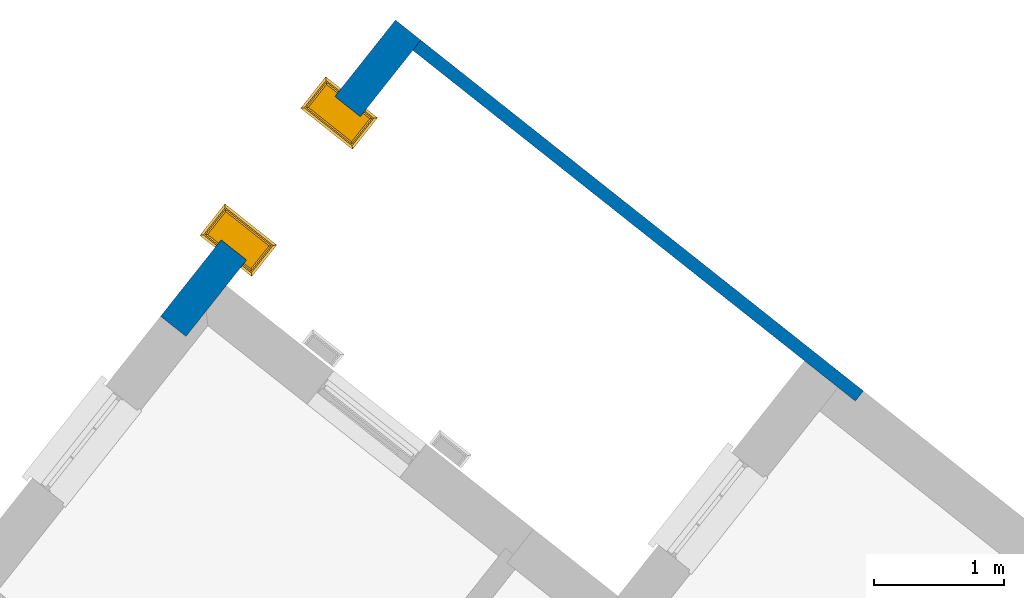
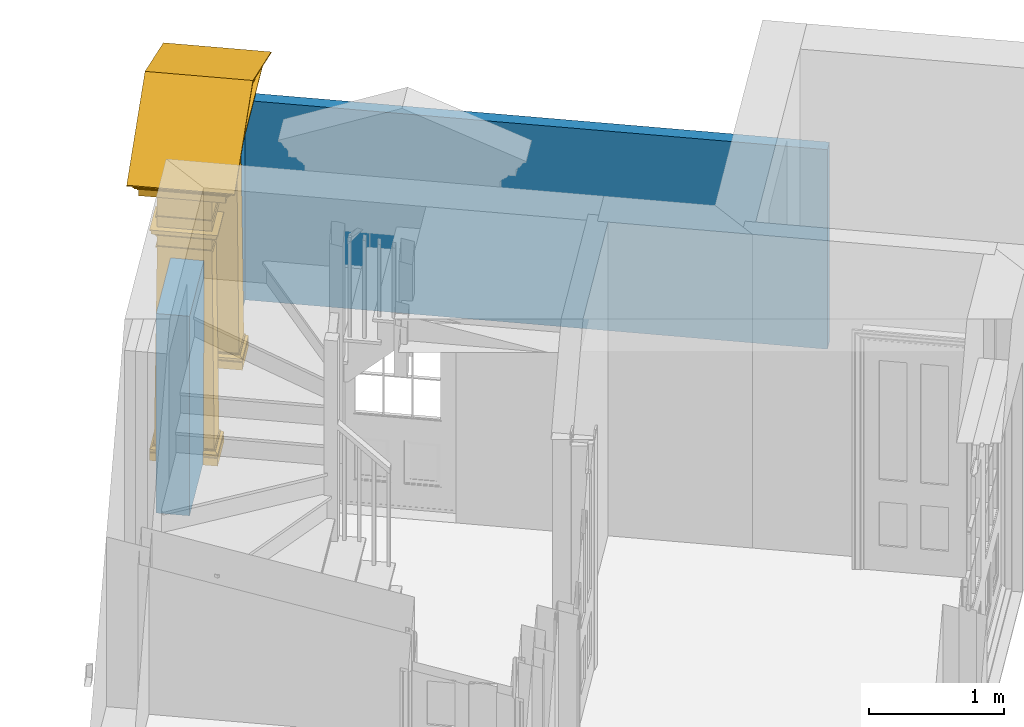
# One storey, part 7 of 8: 2 walls, 1 door, 1 opening.
"""IFC4 building model written with IfcOpenShell, lengths in metres."""

from ifc_helpers import new_model, si_unit, frame, origin, origin_with_axes, place, context, subcontext, project, spatial, polyline, outline, extrude, faceted_brep, source, transform, mapped, material, layer, layer_set, layer_usage, type_object, type_shapes, element, fill, save


model = new_model("IFC4")

# Units and contexts
model_context = context("Model", 3, world=origin_with_axes())
body_context = subcontext(model_context, "Body", "Model", "MODEL_VIEW")
ifc_project = project(units=[si_unit("PLANEANGLEUNIT", "RADIAN"), si_unit("MASSUNIT", "GRAM", prefix="KILO"), si_unit("FORCEUNIT", "NEWTON", prefix="KILO"), si_unit("LENGTHUNIT", "METRE"), si_unit("AREAUNIT", "SQUARE_METRE"), si_unit("VOLUMEUNIT", "CUBIC_METRE")], contexts=[model_context, model_context])

# Sites, building, storey
site_1_placement = place(None, origin_with_axes())
site_1 = spatial("IfcSite", under=ifc_project, at=site_1_placement, Name="Tamar")
site_2_placement = place(site_1_placement, origin_with_axes())
site_2 = spatial("IfcSite", under=site_1, at=site_2_placement, Name="Site plot-5", CompositionType="ELEMENT")
building_placement = place(None, origin_with_axes())
building = spatial("IfcBuilding", under=site_2, at=building_placement, Name="Building plot-5", CompositionType="ELEMENT")
storey_placement = place(None, frame((0.0, 0.0, 24.0), z_axis=(0.0, 0.0, 1.0), x_axis=(1.0, 0.0, 0.0)))
storey = spatial("IfcBuildingStorey", under=building, at=storey_placement, Name="plot-5 0", CompositionType="ELEMENT", Elevation=24.0)

# Wall
ifc_material_1 = material(Name="Masonry")
ifc_layer_1 = layer(ifc_material_1, 0.1, ventilated=False)
ifc_layer_set_1 = layer_set([ifc_layer_1], Name="fence_-0.15_0.25")
ifc_layer_usage_1 = layer_usage(ifc_layer_set_1, "AXIS2", "POSITIVE", -0.25)
wall_type_1 = type_object("IfcWallType", Name="fence_-0.15_0.25", PredefinedType="SOLIDWALL", material=ifc_layer_set_1)
wall_1_placement = place(storey_placement, frame((234.228257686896, 276.89639021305, 0.0), z_axis=(0.0, 0.0, 1.0), x_axis=(-0.783658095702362, 0.621192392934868, 0.0)))
element("IfcWall", 1, at=wall_1_placement, inside=storey, type_object=wall_type_1, material=ifc_layer_usage_1, Name="fence", context=body_context, shape_type="SweptSolid", body=[
    extrude(outline(polyline([(-0.250000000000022, -0.149999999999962), (-0.250000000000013, -0.249999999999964), (4.35009451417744, -0.250000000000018), (4.35009451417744, -0.150000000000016), (-0.250000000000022, -0.149999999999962)])), origin_with_axes(), (0.0, 0.0, 1.0), 1.8),
])

# Wall, opening, door
ifc_material_2 = material(Name="Masonry")
ifc_layer_2 = layer(ifc_material_2, 0.25, ventilated=False)
ifc_layer_set_2 = layer_set([ifc_layer_2], Name="fence_0_0.25")
ifc_layer_usage_2 = layer_usage(ifc_layer_set_2, "AXIS2", "POSITIVE", -0.25)
wall_type_2 = type_object("IfcWallType", Name="fence_0_0.25", PredefinedType="SOLIDWALL", material=ifc_layer_set_2)
wall_2_placement = place(storey_placement, frame((231.015185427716, 279.443337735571, 0.0), z_axis=(0.0, 0.0, 1.0), x_axis=(-0.621192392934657, -0.78365809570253, 0.0)))
wall_2 = element("IfcWall", 2, at=wall_2_placement, inside=storey, type_object=wall_type_2, material=ifc_layer_usage_2, Name="fence", context=body_context, shape_type="SweptSolid", body=[
    extrude(outline(polyline([(-0.25, -7.91319964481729e-15), (-0.250000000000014, -0.250000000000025), (2.66263567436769, -0.25000000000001), (2.66263567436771, 7.09468663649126e-15), (-0.25, -7.91319964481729e-15)])), origin_with_axes(), (0.0, 0.0, 1.0), 1.8),
])
opening_placement = place(wall_2_placement, frame((0.501317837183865, 0.0, -0.0100000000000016)))
opening = element("IfcOpeningElement", 3, at=opening_placement, cuts=wall_2, Name="My Opening", ObjectType="Opening", context=body_context, shape_type="SweptSolid", body=[
    extrude(outline(polyline([(0.0, -0.269999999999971), (1.40999999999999, -0.269999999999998), (1.40999999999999, 1.01999999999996), (3.10862446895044e-15, 1.01999999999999), (0.0, -0.269999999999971)])), origin_with_axes(), (0.0, 0.0, 1.0), 1.81),
])
door_type = type_object("IfcDoorType", Name="gate", OperationType="SINGLE_SWING_LEFT", PredefinedType="NOTDEFINED")
shared_shape = source(origin(), body_context, "Body", "Brep", [
    faceted_brep([(1.565, 0.25, 2.5), (1.565, -0.21, 2.5), (1.565, -0.21, 2.49), (1.565, 0.25, 2.49), (1.445, -0.09, 2.01), (1.215, -0.09, 2.01), (1.215, -0.09, 2.0), (1.445, -0.09, 2.0), (-0.035, -0.09, 2.180001), (-0.025, -0.08, 2.180001), (-0.025, 0.25, 2.180001), (-0.035, 0.25, 2.180001), (-0.025, -0.08, 2.170001), (-0.035, -0.09, 2.170001), (-0.035, 0.25, 2.170001), (-0.025, 0.25, 2.170001), (1.445, -0.09, 2.180001), (1.435, -0.08, 2.180001), (-0.025, -0.08, 2.37), (-0.025, 0.25, 2.37), (1.435, -0.08, 2.170001), (1.445, -0.09, 2.170001), (-0.025, -0.08, 2.08), (-0.025, 0.25, 2.08), (1.445, 0.25, 2.180001), (1.435, 0.25, 2.180001), (1.435, -0.08, 2.37), (-0.035, -0.09, 2.37), (-0.035, 0.25, 2.37), (1.435, 0.25, 2.37), (1.445, 0.25, 2.170001), (1.435, 0.25, 2.170001), (0.235, -0.08, 2.08), (0.235, 0.25, 2.08), (1.175, 0.25, 2.08), (1.175, -0.08, 2.08), (-0.075, 0.25, 2.08), (-0.075, -0.13, 2.08), (1.445, -0.09, 2.37), (-0.035, -0.09, 2.380001), (-0.035, 0.25, 2.380001), (1.445, 0.25, 2.37), (1.435, -0.08, 2.08), (1.435, 0.25, 2.08), (0.235, 0.38, 2.07), (0.235, 0.38, 2.08), (0.235, 0.33, 2.08), (0.235, -0.13, 2.08), (-0.075, 0.25, 2.07), (-0.075, -0.13, 2.07), (1.445, -0.09, 2.380001), (-0.045, -0.1, 2.39), (-0.045, 0.25, 2.39), (1.455, 0.25, 2.39), (1.455, -0.1, 2.39), (1.445, 0.25, 2.380001), (1.485, -0.13, 2.08), (1.485, 0.25, 2.08), (0.235, -0.13, 2.07), (1.175, -0.13, 2.08), (-0.065, 0.25, 2.07), (-0.065, -0.12, 2.07), (-0.055, -0.11, 2.39), (-0.055, 0.25, 2.39), (1.465, 0.25, 2.39), (1.465, -0.11, 2.39), (1.485, 0.25, 2.07), (1.485, -0.13, 2.07), (0.225, 0.25, 2.07), (0.235, 0.25, 2.07), (0.225, -0.12, 2.07), (-0.065, 0.25, 2.04), (-0.065, -0.12, 2.04), (1.475, 0.25, 2.07), (1.475, -0.12, 2.07), (1.175, 0.25, 2.07), (1.185, 0.25, 2.07), (1.185, -0.12, 2.07), (1.175, -0.13, 2.07), (1.175, 0.33, 2.08), (1.175, 0.38, 2.07), (-0.055, -0.11, 2.4), (-0.055, 0.25, 2.4), (1.465, 0.25, 2.4), (1.465, -0.11, 2.4), (0.225, 0.25, 2.04), (0.225, -0.12, 2.04), (-0.055, 0.25, 2.04), (-0.055, -0.11, 2.04), (1.475, 0.25, 2.04), (1.475, -0.12, 2.04), (1.185, 0.25, 2.04), (1.195, 0.25, 2.04), (1.195, -0.11, 2.04), (1.185, -0.12, 2.04), (-0.065, -0.12, 2.4), (-0.065, 0.25, 2.4), (-0.085, -0.14, 2.42), (-0.085, 0.25, 2.42), (-0.085, -0.14, 2.43), (-0.085, 0.25, 2.43), (1.495, 0.25, 2.43), (1.495, -0.14, 2.43), (1.495, -0.14, 2.42), (1.495, 0.25, 2.42), (1.475, 0.25, 2.4), (1.475, -0.12, 2.4), (0.215, 0.25, 2.04), (0.215, -0.11, 2.04), (-0.055, 0.25, 2.03), (-0.055, -0.11, 2.03), (0.215, 0.25, 2.03), (0.215, -0.11, 2.03), (1.465, 0.25, 2.04), (1.465, -0.11, 2.04), (1.195, 0.25, 2.03), (1.195, -0.11, 2.03), (1.465, 0.25, 2.03), (1.465, -0.11, 2.03), (-0.145, -0.2, 2.43), (-0.145, 0.25, 2.43), (1.555, 0.25, 2.43), (1.555, -0.2, 2.43), (-0.035, 0.25, 2.01), (-0.035, -0.09, 2.01), (0.195, 0.25, 2.01), (0.195, -0.09, 2.01), (1.215, 0.25, 2.01), (1.445, 0.25, 2.01), (-0.145, -0.2, 2.49), (-0.145, 0.25, 2.49), (1.555, 0.25, 2.49), (1.555, -0.2, 2.49), (-0.035, 0.25, 2.0), (-0.035, -0.09, 2.0), (0.195, 0.25, 2.0), (0.195, -0.09, 2.0), (1.215, 0.25, 2.0), (1.445, 0.25, 2.0), (-0.155, -0.21, 2.49), (-0.155, 0.25, 2.49), (-0.155, -0.21, 2.5), (-0.155, 0.25, 2.5), (-0.165, -0.22, 2.51), (-0.165, 0.25, 2.51), (1.575, 0.25, 2.51), (1.575, -0.22, 2.51), (-0.025, -0.08, 2.0), (-0.025, 0.25, 2.0), (0.185, -0.08, 2.0), (0.185, 0.25, 2.0), (-0.025, 0.25, 1.91), (-0.025, -0.08, 1.91), (0.185, 0.25, 1.91), (0.185, -0.08, 1.91), (1.225, 0.25, 2.0), (1.225, -0.08, 2.0), (1.435, -0.08, 2.0), (1.435, 0.25, 2.0), (1.435, 0.25, 1.91), (1.435, -0.08, 1.91), (1.225, 0.25, 1.91), (1.225, -0.08, 1.91), (-0.175, -0.23, 2.51), (-0.175, 0.25, 2.51), (1.585, 0.25, 2.51), (1.585, -0.23, 2.51), (-0.035, 0.25, 1.91), (-0.035, -0.09, 1.91), (0.195, -0.09, 1.91), (0.195, 0.25, 1.91), (1.445, -0.09, 1.91), (1.445, 0.25, 1.91), (1.215, -0.09, 1.91), (1.215, 0.25, 1.91), (-0.175, -0.23, 2.52), (-0.175, 0.25, 2.52), (1.585, 0.25, 2.52), (1.585, -0.23, 2.52), (-0.035, 0.25, 1.9), (-0.035, -0.09, 1.9), (0.195, 0.25, 1.9), (0.195, -0.09, 1.9), (-0.025, -0.08, 1.9), (-0.025, 0.25, 1.9), (0.185, -0.08, 1.9), (0.185, 0.25, 1.9), (-0.045, 0.25, 0.13), (-0.045, -0.1, 0.13), (0.205, 0.25, 0.13), (0.205, -0.1, 0.13), (1.445, -0.09, 1.9), (1.445, 0.25, 1.9), (1.435, -0.08, 1.9), (1.435, 0.25, 1.9), (1.455, -0.1, 0.13), (1.455, 0.25, 0.13), (1.225, 0.25, 1.9), (1.205, 0.25, 0.13), (1.205, -0.1, 0.13), (1.225, -0.08, 1.9), (1.215, -0.09, 1.9), (1.215, 0.25, 1.9), (-0.185, -0.24, 2.526), (-0.185, 0.25, 2.526), (-0.150858, -0.23, 2.52), (1.560858, -0.23, 2.52), (-0.195, -0.25, 2.551001), (-0.195, 0.25, 2.551001), (-0.223, 0.25, 2.561001), (-0.223, -0.278, 2.561001), (1.633, -0.278, 2.561001), (1.605, -0.25, 2.551001), (1.605, 0.25, 2.551001), (1.633, 0.25, 2.561001), (1.595, 0.25, 2.526), (1.595, -0.24, 2.526), (-0.055, 0.25, 0.13), (-0.055, -0.11, 0.13), (0.215, 0.25, 0.13), (0.215, -0.11, 0.13), (1.465, -0.11, 0.13), (1.465, 0.25, 0.13), (1.195, 0.25, 0.13), (1.195, -0.11, 0.13), (0.705, -0.23, 2.884508), (0.705, -0.24, 2.89465), (0.705, -0.23, 2.874508), (1.486538, -0.21, 2.522499), (-0.076538, -0.21, 2.522499), (0.705, -0.25, 2.923792), (0.705, -0.278, 2.945389), (-0.223, -0.278, 2.571001), (-0.223, 0.25, 2.571001), (1.633, 0.25, 2.571001), (1.633, -0.278, 2.571001), (-0.055, 0.25, 0.12), (-0.055, -0.11, 0.12), (0.215, 0.25, 0.12), (0.215, -0.11, 0.12), (-0.075, 0.25, 0.1), (-0.075, -0.13, 0.1), (0.235, 0.25, 0.1), (0.235, -0.13, 0.1), (1.465, 0.25, 0.12), (1.465, -0.11, 0.12), (1.485, 0.25, 0.1), (1.485, -0.13, 0.1), (1.195, 0.25, 0.12), (1.175, 0.25, 0.1), (1.175, -0.13, 0.1), (1.195, -0.11, 0.12), (-0.13784, -0.22, 2.52125), (0.705, -0.22, 2.870365), (1.51068, -0.21, 2.522499), (1.54784, -0.22, 2.52125), (1.316733, -0.2, 2.523749), (0.093267, -0.2, 2.523749), (-0.10068, -0.21, 2.522499), (0.705, -0.278, 2.955389), (0.705, 0.25, 2.955389), (-0.075, 0.25, 0.08), (-0.075, -0.13, 0.08), (0.235, 0.25, 0.08), (0.235, -0.13, 0.08), (1.485, -0.13, 0.08), (1.485, 0.25, 0.08), (1.175, 0.25, 0.08), (1.175, -0.13, 0.08), (0.705, -0.21, 2.856223), (0.705, -0.21, 2.846222), (1.272495, -0.14, 2.53125), (0.137505, -0.14, 2.53125), (-0.06352, -0.2, 2.523749), (1.47352, -0.2, 2.523749), (-0.065, 0.25, 0.07), (-0.065, -0.12, 0.07), (0.225, 0.25, 0.07), (0.225, -0.12, 0.07), (1.475, 0.25, 0.07), (1.475, -0.12, 0.07), (1.185, 0.25, 0.07), (1.185, -0.12, 0.07), (0.705, -0.2, 2.842082), (1.298626, -0.14, 2.53125), (1.214197, -0.12, 2.533749), (0.195803, -0.12, 2.533749), (0.111374, -0.14, 2.53125), (0.705, -0.2, 2.777137), (-0.075, 0.25, 0.07), (-0.075, -0.13, 0.07), (0.235, -0.13, 0.07), (0.235, 0.25, 0.07), (0.235, -0.13, 0.0), (-0.075, -0.13, 0.0), (-0.075, 0.25, 0.0), (0.235, 0.25, 0.0), (1.485, -0.13, 0.07), (1.485, 0.25, 0.07), (1.485, -0.13, 0.0), (1.175, -0.13, 0.0), (1.175, 0.25, 0.0), (1.485, 0.25, 0.0), (1.175, -0.13, 0.07), (1.175, 0.25, 0.07), (0.705, -0.14, 2.766314), (0.705, -0.14, 2.777137), (0.705, -0.12, 2.744666), (1.185048, -0.11, 2.535), (0.224952, -0.11, 2.535), (0.705, -0.11, 2.744666), (1.211179, -0.11, 2.535), (1.12675, -0.09, 2.537501), (0.28325, -0.09, 2.537501), (0.198821, -0.11, 2.535), (0.705, -0.11, 2.733843), (1.152881, -0.09, 2.537501), (1.18203, -0.1, 2.536251), (0.286268, -0.08, 2.538751), (1.123732, -0.08, 2.538751), (0.22797, -0.1, 2.536251), (0.257119, -0.09, 2.537501), (0.705, -0.1, 2.733843), (0.705, -0.09, 2.712194), (0.705, -0.09, 2.723017), (0.705, -0.08, 2.712194), (-0.155, 0.46, 2.5), (-0.155, 0.46, 2.49), (-0.035, 0.34, 2.01), (0.195, 0.34, 2.01), (0.195, 0.34, 2.0), (-0.035, 0.34, 2.0), (1.445, 0.34, 2.180001), (1.435, 0.33, 2.180001), (1.435, 0.33, 2.170001), (1.445, 0.34, 2.170001), (-0.035, 0.34, 2.180001), (-0.025, 0.33, 2.180001), (1.435, 0.33, 2.37), (-0.025, 0.33, 2.170001), (-0.035, 0.34, 2.170001), (1.435, 0.33, 2.08), (-0.025, 0.33, 2.37), (1.445, 0.34, 2.37), (1.485, 0.38, 2.08), (-0.035, 0.34, 2.37), (1.445, 0.34, 2.380001), (-0.025, 0.33, 2.08), (1.175, 0.38, 2.08), (1.485, 0.38, 2.07), (-0.035, 0.34, 2.380001), (1.455, 0.35, 2.39), (-0.045, 0.35, 2.39), (-0.075, 0.38, 2.08), (1.475, 0.37, 2.07), (1.465, 0.36, 2.39), (-0.055, 0.36, 2.39), (-0.075, 0.38, 2.07), (1.185, 0.37, 2.07), (1.475, 0.37, 2.04), (-0.065, 0.37, 2.07), (0.225, 0.37, 2.07), (1.465, 0.36, 2.4), (-0.055, 0.36, 2.4), (1.185, 0.37, 2.04), (1.465, 0.36, 2.04), (-0.065, 0.37, 2.04), (0.215, 0.36, 2.04), (0.225, 0.37, 2.04), (1.475, 0.37, 2.4), (1.495, 0.39, 2.42), (1.495, 0.39, 2.43), (-0.085, 0.39, 2.43), (-0.085, 0.39, 2.42), (-0.065, 0.37, 2.4), (1.195, 0.36, 2.04), (1.465, 0.36, 2.03), (1.195, 0.36, 2.03), (-0.055, 0.36, 2.04), (0.215, 0.36, 2.03), (-0.055, 0.36, 2.03), (1.555, 0.45, 2.43), (-0.145, 0.45, 2.43), (1.445, 0.34, 2.01), (1.215, 0.34, 2.01), (1.555, 0.45, 2.49), (-0.145, 0.45, 2.49), (1.445, 0.34, 2.0), (1.215, 0.34, 2.0), (1.565, 0.46, 2.49), (1.565, 0.46, 2.5), (1.575, 0.47, 2.51), (-0.165, 0.47, 2.51), (1.435, 0.33, 2.0), (1.225, 0.33, 2.0), (1.435, 0.33, 1.91), (1.225, 0.33, 1.91), (0.185, 0.33, 2.0), (-0.025, 0.33, 2.0), (-0.025, 0.33, 1.91), (0.185, 0.33, 1.91), (1.585, 0.48, 2.51), (-0.175, 0.48, 2.51), (1.445, 0.34, 1.91), (1.215, 0.34, 1.91), (-0.035, 0.34, 1.91), (0.195, 0.34, 1.91), (1.585, 0.48, 2.52), (-0.175, 0.48, 2.52), (1.445, 0.34, 1.9), (1.215, 0.34, 1.9), (1.435, 0.33, 1.9), (1.225, 0.33, 1.9), (1.455, 0.35, 0.13), (1.205, 0.35, 0.13), (-0.035, 0.34, 1.9), (-0.025, 0.33, 1.9), (-0.045, 0.35, 0.13), (0.205, 0.35, 0.13), (0.185, 0.33, 1.9), (0.195, 0.34, 1.9), (1.595, 0.49, 2.526), (1.560858, 0.48, 2.52), (-0.150858, 0.48, 2.52), (1.605, 0.5, 2.551001), (1.633, 0.528, 2.561001), (-0.223, 0.528, 2.561001), (-0.195, 0.5, 2.551001), (-0.185, 0.49, 2.526), (1.465, 0.36, 0.13), (1.195, 0.36, 0.13), (-0.055, 0.36, 0.13), (0.215, 0.36, 0.13), (0.705, 0.48, 2.884508), (0.705, 0.49, 2.89465), (0.705, 0.48, 2.874508), (-0.076538, 0.46, 2.522499), (1.486538, 0.46, 2.522499), (0.705, 0.5, 2.923792), (0.705, 0.528, 2.945389), (1.633, 0.528, 2.571001), (-0.223, 0.528, 2.571001), (1.465, 0.36, 0.12), (1.195, 0.36, 0.12), (1.485, 0.38, 0.1), (1.175, 0.38, 0.1), (-0.055, 0.36, 0.12), (-0.075, 0.38, 0.1), (0.235, 0.38, 0.1), (0.215, 0.36, 0.12), (1.54784, 0.47, 2.52125), (0.705, 0.47, 2.870365), (-0.10068, 0.46, 2.522499), (-0.13784, 0.47, 2.52125), (0.093267, 0.45, 2.523749), (1.316733, 0.45, 2.523749), (1.51068, 0.46, 2.522499), (0.705, 0.528, 2.955389), (1.485, 0.38, 0.08), (1.175, 0.38, 0.08), (-0.075, 0.38, 0.08), (0.235, 0.38, 0.08), (0.705, 0.46, 2.856223), (0.705, 0.46, 2.846222), (0.137505, 0.39, 2.53125), (1.272495, 0.39, 2.53125), (1.47352, 0.45, 2.523749), (-0.06352, 0.45, 2.523749), (1.475, 0.37, 0.07), (1.185, 0.37, 0.07), (-0.065, 0.37, 0.07), (0.225, 0.37, 0.07), (0.705, 0.45, 2.842082), (0.111374, 0.39, 2.53125), (0.195803, 0.37, 2.533749), (1.214197, 0.37, 2.533749), (1.298626, 0.39, 2.53125), (0.705, 0.45, 2.777137), (1.485, 0.38, 0.07), (1.175, 0.38, 0.07), (1.175, 0.38, 0.0), (1.485, 0.38, 0.0), (-0.075, 0.38, 0.07), (-0.075, 0.38, 0.0), (0.235, 0.38, 0.0), (0.235, 0.38, 0.07), (0.705, 0.39, 2.766314), (0.705, 0.39, 2.777137), (0.705, 0.37, 2.744666), (0.224952, 0.36, 2.535), (1.185048, 0.36, 2.535), (0.705, 0.36, 2.744666), (0.198821, 0.36, 2.535), (0.28325, 0.34, 2.537501), (1.12675, 0.34, 2.537501), (1.211179, 0.36, 2.535), (0.705, 0.36, 2.733843), (0.257119, 0.34, 2.537501), (0.22797, 0.35, 2.536251), (1.123732, 0.33, 2.538751), (0.286268, 0.33, 2.538751), (1.18203, 0.35, 2.536251), (1.152881, 0.34, 2.537501), (0.705, 0.35, 2.733843), (0.705, 0.34, 2.723017), (0.705, 0.34, 2.712194), (0.705, 0.33, 2.712194)], [[[0, 1, 2, 3]], [[4, 5, 6, 7]], [[8, 9, 10, 11]], [[12, 13, 14, 15]], [[13, 8, 11, 14]], [[9, 8, 16, 17]], [[9, 18, 19, 10]], [[13, 12, 20, 21]], [[22, 12, 15, 23]], [[8, 13, 21, 16]], [[17, 16, 24, 25]], [[18, 9, 17, 26]], [[27, 28, 19, 18]], [[26, 17, 25, 29]], [[16, 21, 30, 24]], [[21, 20, 31, 30]], [[32, 33, 34, 35]], [[12, 32, 35, 20]], [[12, 22, 32]], [[22, 23, 36, 37]], [[27, 18, 26, 38]], [[39, 40, 28, 27]], [[41, 38, 26, 29]], [[20, 42, 43, 31]], [[44, 45, 46]], [[42, 20, 35]], [[37, 47, 32, 22]], [[36, 48, 49, 37]], [[39, 27, 38, 50]], [[51, 52, 40, 39]], [[53, 54, 50, 55]], [[55, 50, 38, 41]], [[43, 42, 56, 57]], [[32, 47, 58]], [[59, 56, 42, 35]], [[58, 47, 37, 49]], [[48, 60, 61, 49]], [[51, 39, 50, 54]], [[62, 63, 52, 51]], [[64, 65, 54, 53]], [[66, 57, 56, 67]], [[68, 69, 58, 70]], [[60, 71, 72, 61]], [[73, 66, 67, 74]], [[75, 76, 77, 78]], [[34, 79, 80, 75]], [[59, 78, 67, 56]], [[61, 70, 58, 49]], [[62, 51, 54, 65]], [[81, 82, 63, 62]], [[83, 84, 65, 64]], [[85, 68, 70, 86]], [[71, 87, 88, 72]], [[86, 70, 61, 72]], [[77, 74, 67, 78]], [[89, 73, 74, 90]], [[91, 92, 93, 94]], [[76, 91, 94, 77]], [[81, 62, 65, 84]], [[95, 96, 82, 81]], [[97, 98, 96, 95]], [[99, 100, 98, 97]], [[101, 102, 103, 104]], [[105, 106, 84, 83]], [[104, 103, 106, 105]], [[107, 85, 86, 108]], [[87, 109, 110, 88]], [[88, 108, 86, 72]], [[111, 107, 108, 112]], [[77, 94, 90, 74]], [[113, 89, 90, 114]], [[92, 115, 116, 93]], [[93, 114, 90, 94]], [[117, 113, 114, 118]], [[95, 81, 84, 106]], [[97, 95, 106, 103]], [[119, 120, 100, 99]], [[99, 97, 103, 102]], [[121, 122, 102, 101]], [[109, 123, 124, 110]], [[112, 108, 88, 110]], [[125, 111, 112, 126]], [[115, 127, 5, 116]], [[93, 116, 118, 114]], [[128, 117, 118, 4]], [[129, 130, 120, 119]], [[119, 99, 102, 122]], [[131, 132, 122, 121]], [[123, 133, 134, 124]], [[110, 124, 126, 112]], [[135, 125, 126, 136]], [[127, 137, 6, 5]], [[4, 118, 116, 5]], [[138, 128, 4, 7]], [[139, 140, 130, 129]], [[129, 119, 122, 132]], [[141, 142, 140, 139]], [[143, 144, 142, 141]], [[145, 146, 1, 0]], [[3, 2, 132, 131]], [[147, 134, 133, 148]], [[126, 124, 134, 136]], [[135, 136, 149, 150]], [[148, 151, 152, 147]], [[153, 150, 149, 154]], [[6, 137, 155, 156]], [[7, 157, 158, 138]], [[159, 158, 157, 160]], [[155, 161, 162, 156]], [[139, 129, 132, 2]], [[141, 139, 2, 1]], [[163, 164, 144, 143]], [[143, 141, 1, 146]], [[165, 166, 146, 145]], [[147, 149, 136, 134]], [[167, 168, 152, 151]], [[147, 152, 154, 149]], [[154, 169, 170, 153]], [[156, 157, 7, 6]], [[160, 157, 156, 162]], [[171, 172, 159, 160]], [[173, 162, 161, 174]], [[175, 176, 164, 163]], [[163, 143, 146, 166]], [[177, 178, 166, 165]], [[179, 180, 168, 167]], [[154, 152, 168, 169]], [[181, 170, 169, 182]], [[183, 180, 179, 184]], [[181, 182, 185, 186]], [[184, 187, 188, 183]], [[189, 186, 185, 190]], [[160, 162, 173, 171]], [[191, 192, 172, 171]], [[191, 193, 194, 192]], [[193, 195, 196, 194]], [[197, 198, 199, 200]], [[201, 202, 197, 200]], [[174, 202, 201, 173]], [[203, 204, 176, 175]], [[175, 163, 205]], [[163, 166, 206, 205]], [[207, 208, 204, 203]], [[209, 208, 207, 210]], [[211, 212, 213, 214]], [[215, 216, 178, 177]], [[213, 212, 216, 215]], [[178, 206, 166]], [[180, 182, 169, 168]], [[183, 185, 182, 180]], [[187, 217, 218, 188]], [[183, 188, 190, 185]], [[219, 189, 190, 220]], [[201, 191, 171, 173]], [[200, 193, 191, 201]], [[195, 193, 200, 199]], [[195, 221, 222, 196]], [[198, 223, 224, 199]], [[175, 225, 226, 203]], [[225, 175, 205, 227]], [[205, 206, 228, 229]], [[203, 226, 230, 207]], [[207, 230, 231, 210]], [[232, 233, 209, 210]], [[234, 235, 211, 214]], [[231, 230, 212, 211]], [[216, 226, 225, 178]], [[212, 230, 226, 216]], [[227, 206, 178, 225]], [[217, 236, 237, 218]], [[220, 190, 188, 218]], [[238, 219, 220, 239]], [[236, 240, 241, 237]], [[242, 238, 239, 243]], [[221, 195, 199, 224]], [[244, 222, 221, 245]], [[246, 244, 245, 247]], [[248, 249, 250, 251]], [[223, 248, 251, 224]], [[227, 205, 252, 253]], [[254, 228, 206, 255]], [[256, 257, 229, 228]], [[252, 205, 229, 258]], [[231, 259, 232, 210]], [[260, 233, 232, 259]], [[234, 260, 259, 235]], [[259, 231, 211, 235]], [[253, 255, 206, 227]], [[239, 220, 218, 237]], [[261, 262, 241, 240]], [[243, 239, 237, 241]], [[263, 242, 243, 264]], [[224, 251, 245, 221]], [[251, 250, 247, 245]], [[265, 266, 246, 247]], [[249, 267, 268, 250]], [[253, 252, 258, 269]], [[270, 228, 254, 269]], [[269, 254, 255, 253]], [[256, 271, 272, 257]], [[273, 229, 257]], [[274, 256, 228]], [[269, 258, 229, 270]], [[261, 275, 276, 262]], [[264, 243, 241, 262]], [[277, 263, 264, 278]], [[250, 268, 265, 247]], [[279, 266, 265, 280]], [[267, 281, 282, 268]], [[283, 274, 228, 270]], [[284, 271, 256]], [[271, 285, 286, 272]], [[287, 257, 272]], [[270, 229, 273, 283]], [[283, 273, 257, 288]], [[288, 256, 274, 283]], [[289, 290, 276, 275]], [[262, 276, 278, 264]], [[278, 291, 292, 277]], [[293, 294, 295, 296]], [[280, 265, 268, 282]], [[297, 298, 279, 280]], [[299, 300, 301, 302]], [[303, 282, 281, 304]], [[305, 271, 284, 306]], [[306, 284, 256, 288]], [[307, 285, 271, 305]], [[285, 308, 309, 286]], [[305, 272, 286, 307]], [[288, 257, 287, 306]], [[306, 287, 272, 305]], [[289, 295, 294, 290]], [[278, 276, 290, 291]], [[296, 292, 291, 293]], [[290, 294, 293, 291]], [[280, 282, 303, 297]], [[302, 298, 297, 299]], [[299, 297, 303, 300]], [[304, 301, 300, 303]], [[310, 311, 285, 307]], [[311, 308, 285]], [[308, 312, 313, 309]], [[314, 286, 309]], [[307, 286, 314, 310]], [[315, 308, 311, 310]], [[316, 312, 308, 317]], [[318, 313, 312, 319]], [[320, 309, 313, 321]], [[310, 314, 309, 315]], [[322, 317, 308, 315]], [[323, 312, 316, 324]], [[324, 316, 317, 322]], [[323, 313, 318, 325]], [[325, 319, 312, 323]], [[325, 318, 319]], [[315, 309, 320, 322]], [[324, 321, 313, 323]], [[322, 320, 321, 324]], [[142, 326, 327, 140]], [[328, 329, 330, 331]], [[332, 333, 25, 24]], [[334, 335, 30, 31]], [[335, 332, 24, 30]], [[333, 332, 336, 337]], [[333, 338, 29, 25]], [[335, 334, 339, 340]], [[341, 334, 31, 43]], [[332, 335, 340, 336]], [[337, 336, 11, 10]], [[338, 333, 337, 342]], [[343, 41, 29, 338]], [[342, 337, 10, 19]], [[336, 340, 14, 11]], [[340, 339, 15, 14]], [[79, 34, 33, 46]], [[334, 79, 46, 339]], [[334, 341, 79]], [[341, 43, 57, 344]], [[343, 338, 342, 345]], [[346, 55, 41, 343]], [[28, 345, 342, 19]], [[339, 347, 23, 15]], [[35, 34, 75, 78]], [[33, 32, 58, 69]], [[347, 339, 46]], [[344, 348, 79, 341]], [[57, 66, 349, 344]], [[346, 343, 345, 350]], [[351, 53, 55, 346]], [[52, 352, 350, 40]], [[40, 350, 345, 28]], [[23, 347, 353, 36]], [[79, 348, 80]], [[45, 353, 347, 46]], [[80, 348, 344, 349]], [[66, 73, 354, 349]], [[351, 346, 350, 352]], [[355, 64, 53, 351]], [[63, 356, 352, 52]], [[48, 36, 353, 357]], [[76, 75, 80, 358]], [[73, 89, 359, 354]], [[60, 48, 357, 360]], [[69, 68, 361, 44]], [[46, 33, 69, 44]], [[45, 44, 357, 353]], [[354, 358, 80, 349]], [[355, 351, 352, 356]], [[362, 83, 64, 355]], [[82, 363, 356, 63]], [[91, 76, 358, 364]], [[89, 113, 365, 359]], [[364, 358, 354, 359]], [[361, 360, 357, 44]], [[71, 60, 360, 366]], [[85, 107, 367, 368]], [[68, 85, 368, 361]], [[362, 355, 356, 363]], [[369, 105, 83, 362]], [[370, 104, 105, 369]], [[371, 101, 104, 370]], [[100, 372, 373, 98]], [[96, 374, 363, 82]], [[98, 373, 374, 96]], [[92, 91, 364, 375]], [[113, 117, 376, 365]], [[365, 375, 364, 359]], [[115, 92, 375, 377]], [[361, 368, 366, 360]], [[87, 71, 366, 378]], [[107, 111, 379, 367]], [[367, 378, 366, 368]], [[109, 87, 378, 380]], [[369, 362, 363, 374]], [[370, 369, 374, 373]], [[381, 121, 101, 371]], [[371, 370, 373, 372]], [[120, 382, 372, 100]], [[117, 128, 383, 376]], [[377, 375, 365, 376]], [[127, 115, 377, 384]], [[111, 125, 329, 379]], [[367, 379, 380, 378]], [[123, 109, 380, 328]], [[385, 131, 121, 381]], [[381, 371, 372, 382]], [[130, 386, 382, 120]], [[128, 138, 387, 383]], [[376, 383, 384, 377]], [[137, 127, 384, 388]], [[125, 135, 330, 329]], [[328, 380, 379, 329]], [[133, 123, 328, 331]], [[389, 3, 131, 385]], [[385, 381, 382, 386]], [[390, 0, 3, 389]], [[391, 145, 0, 390]], [[144, 392, 326, 142]], [[140, 327, 386, 130]], [[393, 387, 138, 158]], [[384, 383, 387, 388]], [[137, 388, 394, 155]], [[158, 159, 395, 393]], [[161, 155, 394, 396]], [[330, 135, 150, 397]], [[331, 398, 148, 133]], [[151, 148, 398, 399]], [[150, 153, 400, 397]], [[389, 385, 386, 327]], [[390, 389, 327, 326]], [[401, 165, 145, 391]], [[391, 390, 326, 392]], [[164, 402, 392, 144]], [[393, 394, 388, 387]], [[172, 403, 395, 159]], [[393, 395, 396, 394]], [[396, 404, 174, 161]], [[397, 398, 331, 330]], [[399, 398, 397, 400]], [[405, 167, 151, 399]], [[406, 400, 153, 170]], [[407, 177, 165, 401]], [[401, 391, 392, 402]], [[176, 408, 402, 164]], [[192, 409, 403, 172]], [[396, 395, 403, 404]], [[202, 174, 404, 410]], [[411, 409, 192, 194]], [[202, 410, 412, 197]], [[194, 196, 413, 411]], [[198, 197, 412, 414]], [[399, 400, 406, 405]], [[415, 179, 167, 405]], [[415, 416, 184, 179]], [[416, 417, 187, 184]], [[186, 189, 418, 419]], [[420, 181, 186, 419]], [[170, 181, 420, 406]], [[421, 215, 177, 407]], [[407, 401, 422]], [[401, 402, 423, 422]], [[424, 213, 215, 421]], [[214, 213, 424, 425]], [[426, 427, 208, 209]], [[204, 428, 408, 176]], [[208, 427, 428, 204]], [[408, 423, 402]], [[409, 410, 404, 403]], [[411, 412, 410, 409]], [[196, 222, 429, 413]], [[411, 413, 414, 412]], [[223, 198, 414, 430]], [[420, 415, 405, 406]], [[419, 416, 415, 420]], [[417, 416, 419, 418]], [[417, 431, 217, 187]], [[189, 219, 432, 418]], [[407, 433, 434, 421]], [[433, 407, 422, 435]], [[422, 423, 436, 437]], [[421, 434, 438, 424]], [[424, 438, 439, 425]], [[440, 234, 214, 425]], [[233, 441, 426, 209]], [[439, 438, 427, 426]], [[428, 434, 433, 408]], [[427, 438, 434, 428]], [[435, 423, 408, 433]], [[222, 244, 442, 429]], [[430, 414, 413, 429]], [[248, 223, 430, 443]], [[244, 246, 444, 442]], [[249, 248, 443, 445]], [[431, 417, 418, 432]], [[236, 217, 431, 446]], [[240, 236, 446, 447]], [[238, 242, 448, 449]], [[219, 238, 449, 432]], [[435, 422, 450, 451]], [[452, 436, 423, 453]], [[454, 455, 437, 436]], [[450, 422, 437, 456]], [[439, 457, 440, 425]], [[260, 234, 440, 457]], [[233, 260, 457, 441]], [[457, 439, 426, 441]], [[451, 453, 423, 435]], [[443, 430, 429, 442]], [[266, 458, 444, 246]], [[445, 443, 442, 444]], [[267, 249, 445, 459]], [[432, 449, 446, 431]], [[449, 448, 447, 446]], [[460, 261, 240, 447]], [[242, 263, 461, 448]], [[451, 450, 456, 462]], [[463, 436, 452, 462]], [[462, 452, 453, 451]], [[454, 464, 465, 455]], [[466, 437, 455]], [[467, 454, 436]], [[462, 456, 437, 463]], [[266, 279, 468, 458]], [[459, 445, 444, 458]], [[281, 267, 459, 469]], [[448, 461, 460, 447]], [[275, 261, 460, 470]], [[263, 277, 471, 461]], [[472, 467, 436, 463]], [[473, 464, 454]], [[464, 474, 475, 465]], [[476, 455, 465]], [[463, 437, 466, 472]], [[472, 466, 455, 477]], [[477, 454, 467, 472]], [[298, 478, 468, 279]], [[458, 468, 469, 459]], [[469, 479, 304, 281]], [[480, 481, 302, 301]], [[470, 460, 461, 471]], [[482, 289, 275, 470]], [[483, 484, 296, 295]], [[485, 471, 277, 292]], [[486, 464, 473, 487]], [[487, 473, 454, 477]], [[488, 474, 464, 486]], [[474, 489, 490, 475]], [[486, 465, 475, 488]], [[477, 455, 476, 487]], [[487, 476, 465, 486]], [[298, 302, 481, 478]], [[469, 468, 478, 479]], [[301, 304, 479, 480]], [[478, 481, 480, 479]], [[470, 471, 485, 482]], [[295, 289, 482, 483]], [[483, 482, 485, 484]], [[292, 296, 484, 485]], [[491, 492, 474, 488]], [[492, 489, 474]], [[489, 493, 494, 490]], [[495, 475, 490]], [[488, 475, 495, 491]], [[496, 489, 492, 491]], [[497, 493, 489, 498]], [[499, 494, 493, 500]], [[501, 490, 494, 502]], [[491, 495, 490, 496]], [[503, 498, 489, 496]], [[497, 504, 505, 493]], [[504, 497, 498, 503]], [[505, 494, 499, 506]], [[506, 500, 493, 505]], [[506, 499, 500]], [[496, 490, 501, 503]], [[504, 502, 494, 505]], [[503, 501, 502, 504]], [[78, 59, 35]]]),
])
type_shapes(door_type, [shared_shape])
door_placement = place(storey_placement, frame((230.492182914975, 279.218197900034, -0.0100000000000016), z_axis=(0.0, 0.0, 1.0), x_axis=(-0.87588127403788, -1.10495791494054, 0.0)))
door = element("IfcDoor", 4, at=door_placement, inside=storey, type_object=door_type, Name="house entrance gate", OverallHeight=1.81, OverallWidth=1.41, context=body_context, shape_type="MappedRepresentation", body=[
    mapped(shared_shape, transform((0.0, 0.0, 0.0), scale=1.0)),
])
fill(opening, door)

save(model, "model.ifc")
